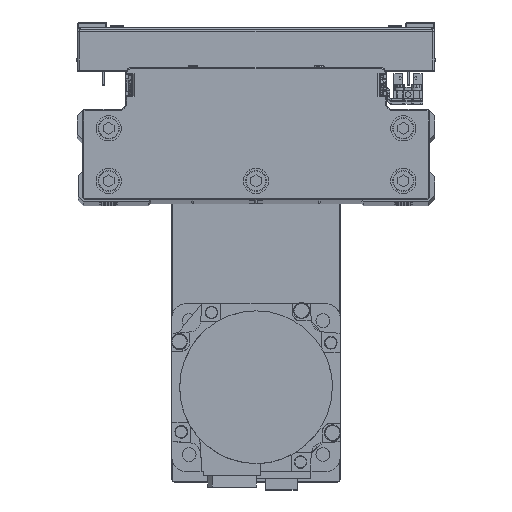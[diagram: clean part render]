
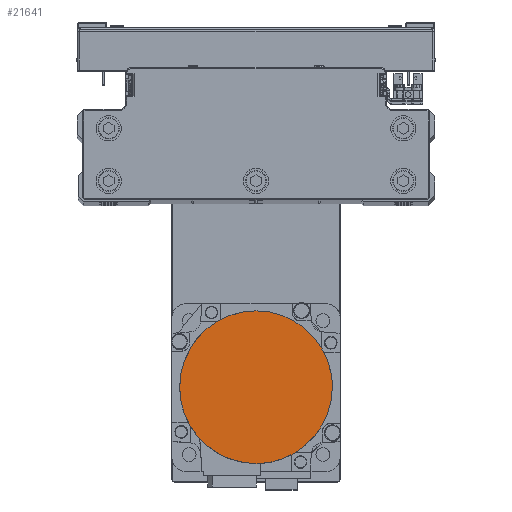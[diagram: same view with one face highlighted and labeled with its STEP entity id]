
A CAD part, top view. The second image highlights one B-rep face of the part: STEP entity #21641.
In plain terms, the highlighted planar face has unit normal (0, 0, 1) as drawn and (0, 0, -1) by its records, which use the part's own axes.
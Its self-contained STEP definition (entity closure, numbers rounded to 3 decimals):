
#520 = DIRECTION ( 'NONE',  ( 1., 0., 0. ) ) ;
#1785 = CARTESIAN_POINT ( 'NONE',  ( -4.752, 36.066, -122.2 ) ) ;
#1997 = CARTESIAN_POINT ( 'NONE',  ( -36.066, 4.752, -122.2 ) ) ;
#2187 = CARTESIAN_POINT ( 'NONE',  ( -36.3, 0., -122.2 ) ) ;
#2439 = CARTESIAN_POINT ( 'NONE',  ( -11.696, -34.446, -122.2 ) ) ;
#3045 = B_SPLINE_CURVE_WITH_KNOTS ( 'NONE', 3,
 ( #2187, #16039, #29881, #43699, #12659, #26479, #40278, #9235, #23065, #36889, #5833, #19650, #33503, #2439, #16287, #30109, #43912, #12870 ),
 .UNSPECIFIED., .F., .F.,
 ( 4, 2, 2, 2, 2, 2, 2, 2, 4 ),
 ( 0., 0.125, 0.25, 0.375, 0.5, 0.625, 0.75, 0.875, 1. ),
 .UNSPECIFIED. ) ;
#3173 = B_SPLINE_CURVE_WITH_KNOTS ( 'NONE', 3,
 ( #19009, #32855, #1785, #15629, #29454, #43258, #12213, #26035, #39839, #8807, #22648, #36482, #5427, #19234, #33064, #1997, #15840, #29668 ),
 .UNSPECIFIED., .F., .F.,
 ( 4, 2, 2, 2, 2, 2, 2, 2, 4 ),
 ( 0., 0.125, 0.25, 0.375, 0.5, 0.625, 0.75, 0.875, 1. ),
 .UNSPECIFIED. ) ;
#3593 = EDGE_CURVE ( 'NONE', #5728, #12312, #3173, .T. ) ;
#3946 = PLANE ( 'NONE',  #4465 ) ;
#4465 = AXIS2_PLACEMENT_3D ( 'NONE', #17775, #31600, #520 ) ;
#5427 = CARTESIAN_POINT ( 'NONE',  ( -32.628, 16.086, -122.2 ) ) ;
#5545 = DIRECTION ( 'NONE',  ( -1., 0., 0. ) ) ;
#5728 = VERTEX_POINT ( 'NONE', #39984 ) ;
#5833 = CARTESIAN_POINT ( 'NONE',  ( -22.143, -28.862, -122.2 ) ) ;
#5949 = VERTEX_POINT ( 'NONE', #17308 ) ;
#7615 = CARTESIAN_POINT ( 'NONE',  ( 0., 0., -122.2 ) ) ;
#8807 = CARTESIAN_POINT ( 'NONE',  ( -27.348, 23.988, -122.2 ) ) ;
#9235 = CARTESIAN_POINT ( 'NONE',  ( -28.862, -22.143, -122.2 ) ) ;
#9292 = ORIENTED_EDGE ( 'NONE', *, *, #3593, .F. ) ;
#11841 = CARTESIAN_POINT ( 'NONE',  ( 36.3, 0., -122.2 ) ) ;
#12213 = CARTESIAN_POINT ( 'NONE',  ( -18.192, 31.502, -122.2 ) ) ;
#12312 = VERTEX_POINT ( 'NONE', #25593 ) ;
#12659 = CARTESIAN_POINT ( 'NONE',  ( -34.446, -11.696, -122.2 ) ) ;
#12870 = CARTESIAN_POINT ( 'NONE',  ( 0., -36.3, -122.2 ) ) ;
#13603 = AXIS2_PLACEMENT_3D ( 'NONE', #22787, #36608, #5545 ) ;
#14890 = VERTEX_POINT ( 'NONE', #11841 ) ;
#15629 = CARTESIAN_POINT ( 'NONE',  ( -9.412, 35.139, -122.2 ) ) ;
#15840 = CARTESIAN_POINT ( 'NONE',  ( -36.3, 2.376, -122.2 ) ) ;
#16039 = CARTESIAN_POINT ( 'NONE',  ( -36.3, -2.376, -122.2 ) ) ;
#16174 = EDGE_CURVE ( 'NONE', #5949, #14890, #18115, .T. ) ;
#16287 = CARTESIAN_POINT ( 'NONE',  ( -9.412, -35.139, -122.2 ) ) ;
#17308 = CARTESIAN_POINT ( 'NONE',  ( 0., -36.3, -122.2 ) ) ;
#17775 = CARTESIAN_POINT ( 'NONE',  ( 0., 0., -122.2 ) ) ;
#18115 = CIRCLE ( 'NONE', #43438, 36.3 ) ;
#18866 = EDGE_LOOP ( 'NONE', ( #24812, #40952, #9292, #26780 ) ) ;
#19009 = CARTESIAN_POINT ( 'NONE',  ( 0., 36.3, -122.2 ) ) ;
#19234 = CARTESIAN_POINT ( 'NONE',  ( -34.446, 11.696, -122.2 ) ) ;
#19650 = CARTESIAN_POINT ( 'NONE',  ( -18.192, -31.502, -122.2 ) ) ;
#21429 = DIRECTION ( 'NONE',  ( 0., 0., 1. ) ) ;
#21641 = ADVANCED_FACE ( 'NONE', ( #35009 ), #3946, .F. ) ;
#22648 = CARTESIAN_POINT ( 'NONE',  ( -28.862, 22.143, -122.2 ) ) ;
#22787 = CARTESIAN_POINT ( 'NONE',  ( 0., 0., -122.2 ) ) ;
#23065 = CARTESIAN_POINT ( 'NONE',  ( -27.348, -23.988, -122.2 ) ) ;
#24812 = ORIENTED_EDGE ( 'NONE', *, *, #16174, .F. ) ;
#25593 = CARTESIAN_POINT ( 'NONE',  ( -36.3, 0., -122.2 ) ) ;
#26035 = CARTESIAN_POINT ( 'NONE',  ( -22.143, 28.862, -122.2 ) ) ;
#26479 = CARTESIAN_POINT ( 'NONE',  ( -32.628, -16.086, -122.2 ) ) ;
#26780 = ORIENTED_EDGE ( 'NONE', *, *, #29920, .F. ) ;
#29454 = CARTESIAN_POINT ( 'NONE',  ( -11.696, 34.446, -122.2 ) ) ;
#29668 = CARTESIAN_POINT ( 'NONE',  ( -36.3, 0., -122.2 ) ) ;
#29881 = CARTESIAN_POINT ( 'NONE',  ( -36.066, -4.752, -122.2 ) ) ;
#29920 = EDGE_CURVE ( 'NONE', #14890, #5728, #33137, .T. ) ;
#30109 = CARTESIAN_POINT ( 'NONE',  ( -4.752, -36.066, -122.2 ) ) ;
#31600 = DIRECTION ( 'NONE',  ( 0., 0., 1. ) ) ;
#32795 = EDGE_CURVE ( 'NONE', #12312, #5949, #3045, .T. ) ;
#32855 = CARTESIAN_POINT ( 'NONE',  ( -2.376, 36.3, -122.2 ) ) ;
#33064 = CARTESIAN_POINT ( 'NONE',  ( -35.139, 9.412, -122.2 ) ) ;
#33137 = CIRCLE ( 'NONE', #13603, 36.3 ) ;
#33503 = CARTESIAN_POINT ( 'NONE',  ( -16.086, -32.628, -122.2 ) ) ;
#35009 = FACE_OUTER_BOUND ( 'NONE', #18866, .T. ) ;
#35259 = DIRECTION ( 'NONE',  ( -1., 0., 0. ) ) ;
#36482 = CARTESIAN_POINT ( 'NONE',  ( -31.502, 18.192, -122.2 ) ) ;
#36608 = DIRECTION ( 'NONE',  ( 0., 0., 1. ) ) ;
#36889 = CARTESIAN_POINT ( 'NONE',  ( -23.988, -27.348, -122.2 ) ) ;
#39839 = CARTESIAN_POINT ( 'NONE',  ( -23.988, 27.348, -122.2 ) ) ;
#39984 = CARTESIAN_POINT ( 'NONE',  ( 0., 36.3, -122.2 ) ) ;
#40278 = CARTESIAN_POINT ( 'NONE',  ( -31.502, -18.192, -122.2 ) ) ;
#40952 = ORIENTED_EDGE ( 'NONE', *, *, #32795, .F. ) ;
#43258 = CARTESIAN_POINT ( 'NONE',  ( -16.086, 32.628, -122.2 ) ) ;
#43438 = AXIS2_PLACEMENT_3D ( 'NONE', #7615, #21429, #35259 ) ;
#43699 = CARTESIAN_POINT ( 'NONE',  ( -35.139, -9.412, -122.2 ) ) ;
#43912 = CARTESIAN_POINT ( 'NONE',  ( -2.376, -36.3, -122.2 ) ) ;
